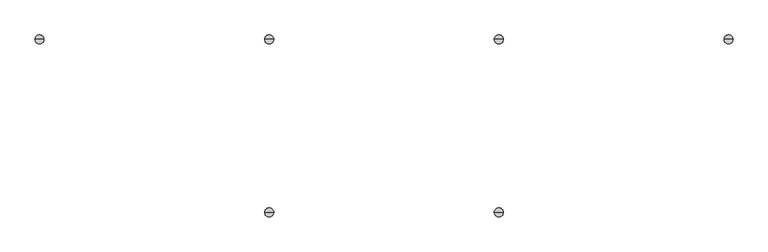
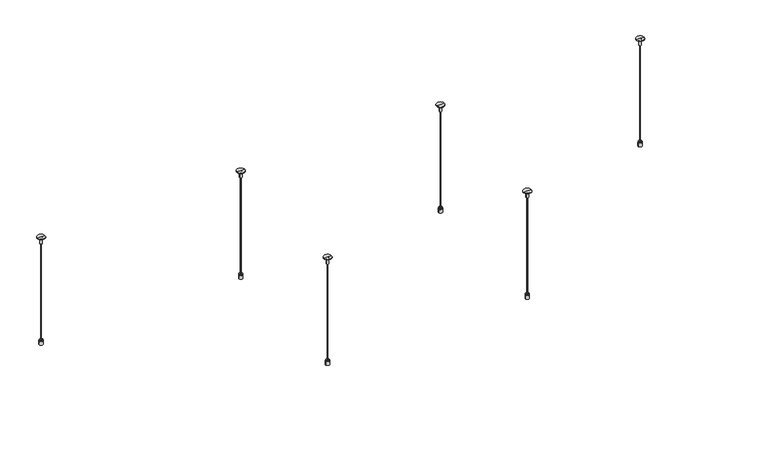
"""IFC4 building model written with IfcOpenShell, lengths in millimetres: proxy geometry, OWA Selecta : Selecta grande XL."""

from ifc_helpers import new_model, si_unit, point, frame, frame_2d, origin, place, context, project, spatial, polyline, circle_curve, trimmed, segment, composite_curve, outline, extrude, source, transform, mapped, element, save
from ifc_brep_helpers import plane_surface, cylinder_surface, revolved_surface, advanced_brep


def specialty_equipment_895da12a(model_context):
    return source(origin(), model_context, "Body", "SolidModel", [
        advanced_brep(
        [(-28.5, 305.0, 0.0), (-20.7593825, 305.0, 0.0), (-36.2406175, 305.0, 0.0), (-20.7593825, 305.0, 15.0), (-36.2406175, 305.0, 15.0), (-21.6843825, 305.0, 15.0), (-35.3156175, 305.0, 15.0), (-21.6843825, 305.0, 19.0), (-35.3156175, 305.0, 19.0), (-26.4343825, 305.0, 19.0), (-30.5656175, 305.0, 19.0), (-26.4343825, 305.0, 22.546183), (-30.5656175, 305.0, 22.546183), (-28.5, 305.0, 22.546183)],
        [
            (0, 1),
            (1, 2, circle_curve(frame((-28.5, 305.0, 0.0), z_axis=(0.0, 0.0, -1.0), x_axis=(1.0, 0.0, 0.0)), 7.7406175)),
            (2, 0),
            (2, 1, circle_curve(frame((-28.5, 305.0, 0.0), z_axis=(0.0, 0.0, -1.0), x_axis=(1.0, 0.0, 0.0)), 7.7406175)),
            (1, 3),
            (3, 4, circle_curve(frame((-28.5, 305.0, 15.0), z_axis=(0.0, 0.0, -1.0), x_axis=(1.0, 0.0, 0.0)), 7.7406175)),
            (4, 2),
            (4, 3, circle_curve(frame((-28.5, 305.0, 15.0), z_axis=(0.0, 0.0, -1.0), x_axis=(1.0, 0.0, 0.0)), 7.7406175)),
            (3, 5),
            (5, 6, circle_curve(frame((-28.5, 305.0, 15.0), z_axis=(0.0, 0.0, -1.0), x_axis=(1.0, 0.0, 0.0)), 6.8156175)),
            (6, 4),
            (6, 5, circle_curve(frame((-28.5, 305.0, 15.0), z_axis=(0.0, 0.0, -1.0), x_axis=(1.0, 0.0, 0.0)), 6.8156175)),
            (5, 7),
            (7, 8, circle_curve(frame((-28.5, 305.0, 19.0), z_axis=(0.0, 0.0, -1.0), x_axis=(1.0, 0.0, 0.0)), 6.8156175)),
            (8, 6),
            (8, 7, circle_curve(frame((-28.5, 305.0, 19.0), z_axis=(0.0, 0.0, -1.0), x_axis=(1.0, 0.0, 0.0)), 6.8156175)),
            (7, 9),
            (9, 10, circle_curve(frame((-28.5, 305.0, 19.0), z_axis=(0.0, 0.0, -1.0), x_axis=(1.0, 0.0, 0.0)), 2.0656175)),
            (10, 8),
            (10, 9, circle_curve(frame((-28.5, 305.0, 19.0), z_axis=(0.0, 0.0, -1.0), x_axis=(1.0, 0.0, 0.0)), 2.0656175)),
            (9, 11),
            (11, 12, circle_curve(frame((-28.5, 305.0, 22.546183), z_axis=(0.0, 0.0, -1.0), x_axis=(1.0, 0.0, 0.0)), 2.0656175)),
            (12, 10),
            (12, 11, circle_curve(frame((-28.5, 305.0, 22.546183), z_axis=(0.0, 0.0, -1.0), x_axis=(1.0, 0.0, 0.0)), 2.0656175)),
            (11, 13),
            (13, 12),
        ],
        [
            plane_surface(frame((-28.5, 305.0, 0.0), z_axis=(0.0, 0.0, -1.0), x_axis=(1.0, 0.0, 0.0))),
            cylinder_surface(frame((-28.5, 305.0, -10.0), z_axis=(0.0, 0.0, -1.0), x_axis=(1.0, 0.0, 0.0)), 7.7406175),
            plane_surface(frame((-28.5, 305.0, 15.0), z_axis=(0.0, 0.0, 1.0), x_axis=(1.0, 0.0, 0.0))),
            cylinder_surface(frame((-28.5, 305.0, -10.0), z_axis=(0.0, 0.0, -1.0), x_axis=(1.0, 0.0, 0.0)), 6.8156175),
            plane_surface(frame((-28.5, 305.0, 19.0), z_axis=(0.0, 0.0, 1.0), x_axis=(1.0, 0.0, 0.0))),
            cylinder_surface(frame((-28.5, 305.0, -10.0), z_axis=(0.0, 0.0, -1.0), x_axis=(1.0, 0.0, 0.0)), 2.0656175),
            plane_surface(frame((-28.5, 305.0, 22.546183), z_axis=(0.0, 0.0, 1.0), x_axis=(1.0, 0.0, 0.0))),
        ],
        [
            (0, [[1, 2, 3]]),
            (0, [[-3, 4, -1]]),
            (1, [[-2, 5, 6, 7]]),
            (1, [[-4, -7, 8, -5]]),
            (2, [[-6, 9, 10, 11]]),
            (2, [[-8, -11, 12, -9]]),
            (3, [[-10, 13, 14, 15]]),
            (3, [[-12, -15, 16, -13]]),
            (4, [[-14, 17, 18, 19]]),
            (4, [[-16, -19, 20, -17]]),
            (5, [[-18, 21, 22, 23]]),
            (5, [[-20, -23, 24, -21]]),
            (6, [[-22, 25, 26]]),
            (6, [[-24, -26, -25]]),
        ],
    ),
        advanced_brep(
        [(-30.7384611, 305.0, 428.8211737), (-26.2615389, 305.0, 428.8211737), (-26.1339453, 305.0, 432.8711737), (-30.8660547, 305.0, 432.8711737), (-23.6339453, 305.0, 432.8711737), (-33.3660547, 305.0, 432.8711737), (-23.6339453, 305.0, 458.1211737), (-33.3660547, 305.0, 458.1211737), (-12.6339453, 305.0, 458.1211737), (-44.3660547, 305.0, 458.1211737), (-12.6339453, 305.0, 460.0), (-44.3660547, 305.0, 460.0), (-28.5, 305.0, 460.0), (-28.5, 305.0, 428.8211737)],
        [
            (0, 1, circle_curve(frame((-28.5, 305.0, 428.8211737), z_axis=(0.0, 0.0, 1.0), x_axis=(1.0, 0.0, 0.0)), 2.2384611)),
            (1, 2),
            (2, 3, circle_curve(frame((-28.5, 305.0, 432.8711737), z_axis=(0.0, 0.0, -1.0), x_axis=(1.0, 0.0, 0.0)), 2.3660547)),
            (3, 0),
            (1, 0, circle_curve(frame((-28.5, 305.0, 428.8211737), z_axis=(0.0, 0.0, 1.0), x_axis=(1.0, 0.0, 0.0)), 2.2384611)),
            (3, 2, circle_curve(frame((-28.5, 305.0, 432.8711737), z_axis=(0.0, 0.0, -1.0), x_axis=(1.0, 0.0, 0.0)), 2.3660547)),
            (2, 4),
            (4, 5, circle_curve(frame((-28.5, 305.0, 432.8711737), z_axis=(0.0, 0.0, -1.0), x_axis=(1.0, 0.0, 0.0)), 4.8660547)),
            (5, 3),
            (5, 4, circle_curve(frame((-28.5, 305.0, 432.8711737), z_axis=(0.0, 0.0, -1.0), x_axis=(1.0, 0.0, 0.0)), 4.8660547)),
            (4, 6),
            (6, 7, circle_curve(frame((-28.5, 305.0, 458.1211737), z_axis=(0.0, 0.0, -1.0), x_axis=(1.0, 0.0, 0.0)), 4.8660547)),
            (7, 5),
            (7, 6, circle_curve(frame((-28.5, 305.0, 458.1211737), z_axis=(0.0, 0.0, -1.0), x_axis=(1.0, 0.0, 0.0)), 4.8660547)),
            (6, 8),
            (8, 9, circle_curve(frame((-28.5, 305.0, 458.1211737), z_axis=(0.0, 0.0, -1.0), x_axis=(1.0, 0.0, 0.0)), 15.8660547)),
            (9, 7),
            (9, 8, circle_curve(frame((-28.5, 305.0, 458.1211737), z_axis=(0.0, 0.0, -1.0), x_axis=(1.0, 0.0, 0.0)), 15.8660547)),
            (8, 10),
            (10, 11, circle_curve(frame((-28.5, 305.0, 460.0), z_axis=(0.0, 0.0, -1.0), x_axis=(1.0, 0.0, 0.0)), 15.8660547)),
            (11, 9),
            (11, 10, circle_curve(frame((-28.5, 305.0, 460.0), z_axis=(0.0, 0.0, -1.0), x_axis=(1.0, 0.0, 0.0)), 15.8660547)),
            (10, 12),
            (12, 11),
            (13, 1),
            (0, 13),
        ],
        [
            revolved_surface(polyline([(-26.1339453, 305.0, 432.8711737), (-26.2615389, 305.0, 428.8211737)]), (-28.5, 305.0, 461.8401096), (0.0, 0.0, -1.0)),
            plane_surface(frame((-28.5, 305.0, 432.8711737), z_axis=(0.0, 0.0, -1.0), x_axis=(1.0, 0.0, 0.0))),
            cylinder_surface(frame((-28.5, 305.0, 461.8401096), z_axis=(0.0, 0.0, -1.0), x_axis=(1.0, 0.0, 0.0)), 4.8660547),
            plane_surface(frame((-28.5, 305.0, 458.1211737), z_axis=(0.0, 0.0, -1.0), x_axis=(1.0, 0.0, 0.0))),
            cylinder_surface(frame((-28.5, 305.0, 461.8401096), z_axis=(0.0, 0.0, -1.0), x_axis=(1.0, 0.0, 0.0)), 15.8660547),
            plane_surface(frame((-28.5, 305.0, 460.0), z_axis=(0.0, 0.0, 1.0), x_axis=(1.0, 0.0, 0.0))),
            plane_surface(frame((-28.5, 305.0, 428.8211737), z_axis=(0.0, 0.0, -1.0), x_axis=(1.0, 0.0, 0.0))),
        ],
        [
            (0, [[1, 2, 3, 4]]),
            (0, [[5, -4, 6, -2]]),
            (1, [[-3, 7, 8, 9]]),
            (1, [[-6, -9, 10, -7]]),
            (2, [[-8, 11, 12, 13]]),
            (2, [[-10, -13, 14, -11]]),
            (3, [[-12, 15, 16, 17]]),
            (3, [[-14, -17, 18, -15]]),
            (4, [[-16, 19, 20, 21]]),
            (4, [[-18, -21, 22, -19]]),
            (5, [[-20, 23, 24]]),
            (5, [[-22, -24, -23]]),
            (6, [[25, -1, 26]]),
            (6, [[-26, -5, -25]]),
        ],
    ),
        extrude(outline(composite_curve([segment(trimmed(circle_curve(frame_2d((-28.5, 305.0)), 1.0), [point((-27.5, 305.0))], [point((-29.5, 305.0))], False, "CARTESIAN"), True, "CONTINUOUS"), segment(trimmed(circle_curve(frame_2d((-28.5, 305.0)), 1.0), [point((-29.5, 305.0))], [point((-27.5, 305.0))], False, "CARTESIAN"), True, "CONTINUOUS")], self_intersect=False)), frame((0.0, 0.0, 22.546183), z_axis=(0.0, 0.0, 1.0), x_axis=(1.0, 0.0, 0.0)), (0.0, 0.0, 1.0), 406.2749908),
        advanced_brep(
        [(-28.5, -305.0, 0.0), (-36.2406175, -305.0, 0.0), (-20.7593825, -305.0, 0.0), (-36.2406175, -305.0, 15.0), (-20.7593825, -305.0, 15.0), (-35.3156175, -305.0, 15.0), (-21.6843825, -305.0, 15.0), (-35.3156175, -305.0, 19.0), (-21.6843825, -305.0, 19.0), (-30.5656175, -305.0, 19.0), (-26.4343825, -305.0, 19.0), (-30.5656175, -305.0, 22.546183), (-26.4343825, -305.0, 22.546183), (-28.5, -305.0, 22.546183)],
        [
            (0, 1),
            (1, 2, circle_curve(frame((-28.5, -305.0, 0.0), z_axis=(0.0, 0.0, -1.0), x_axis=(1.0, 0.0, 0.0)), 7.7406175)),
            (2, 0),
            (2, 1, circle_curve(frame((-28.5, -305.0, 0.0), z_axis=(0.0, 0.0, -1.0), x_axis=(1.0, 0.0, 0.0)), 7.7406175)),
            (1, 3),
            (3, 4, circle_curve(frame((-28.5, -305.0, 15.0), z_axis=(0.0, 0.0, -1.0), x_axis=(1.0, 0.0, 0.0)), 7.7406175)),
            (4, 2),
            (4, 3, circle_curve(frame((-28.5, -305.0, 15.0), z_axis=(0.0, 0.0, -1.0), x_axis=(1.0, 0.0, 0.0)), 7.7406175)),
            (3, 5),
            (5, 6, circle_curve(frame((-28.5, -305.0, 15.0), z_axis=(0.0, 0.0, -1.0), x_axis=(1.0, 0.0, 0.0)), 6.8156175)),
            (6, 4),
            (6, 5, circle_curve(frame((-28.5, -305.0, 15.0), z_axis=(0.0, 0.0, -1.0), x_axis=(1.0, 0.0, 0.0)), 6.8156175)),
            (5, 7),
            (7, 8, circle_curve(frame((-28.5, -305.0, 19.0), z_axis=(0.0, 0.0, -1.0), x_axis=(1.0, 0.0, 0.0)), 6.8156175)),
            (8, 6),
            (8, 7, circle_curve(frame((-28.5, -305.0, 19.0), z_axis=(0.0, 0.0, -1.0), x_axis=(1.0, 0.0, 0.0)), 6.8156175)),
            (7, 9),
            (9, 10, circle_curve(frame((-28.5, -305.0, 19.0), z_axis=(0.0, 0.0, -1.0), x_axis=(1.0, 0.0, 0.0)), 2.0656175)),
            (10, 8),
            (10, 9, circle_curve(frame((-28.5, -305.0, 19.0), z_axis=(0.0, 0.0, -1.0), x_axis=(1.0, 0.0, 0.0)), 2.0656175)),
            (9, 11),
            (11, 12, circle_curve(frame((-28.5, -305.0, 22.546183), z_axis=(0.0, 0.0, -1.0), x_axis=(1.0, 0.0, 0.0)), 2.0656175)),
            (12, 10),
            (12, 11, circle_curve(frame((-28.5, -305.0, 22.546183), z_axis=(0.0, 0.0, -1.0), x_axis=(1.0, 0.0, 0.0)), 2.0656175)),
            (11, 13),
            (13, 12),
        ],
        [
            plane_surface(frame((-28.5, -305.0, 0.0), z_axis=(0.0, 0.0, -1.0), x_axis=(1.0, 0.0, 0.0))),
            cylinder_surface(frame((-28.5, -305.0, -10.0), z_axis=(0.0, 0.0, -1.0), x_axis=(1.0, 0.0, 0.0)), 7.7406175),
            plane_surface(frame((-28.5, -305.0, 15.0), z_axis=(0.0, 0.0, 1.0), x_axis=(1.0, 0.0, 0.0))),
            cylinder_surface(frame((-28.5, -305.0, -10.0), z_axis=(0.0, 0.0, -1.0), x_axis=(1.0, 0.0, 0.0)), 6.8156175),
            plane_surface(frame((-28.5, -305.0, 19.0), z_axis=(0.0, 0.0, 1.0), x_axis=(1.0, 0.0, 0.0))),
            cylinder_surface(frame((-28.5, -305.0, -10.0), z_axis=(0.0, 0.0, -1.0), x_axis=(1.0, 0.0, 0.0)), 2.0656175),
            plane_surface(frame((-28.5, -305.0, 22.546183), z_axis=(0.0, 0.0, 1.0), x_axis=(1.0, 0.0, 0.0))),
        ],
        [
            (0, [[1, 2, 3]]),
            (0, [[-3, 4, -1]]),
            (1, [[5, 6, 7, -2]]),
            (1, [[-7, 8, -5, -4]]),
            (2, [[9, 10, 11, -6]]),
            (2, [[-11, 12, -9, -8]]),
            (3, [[13, 14, 15, -10]]),
            (3, [[-15, 16, -13, -12]]),
            (4, [[17, 18, 19, -14]]),
            (4, [[-19, 20, -17, -16]]),
            (5, [[21, 22, 23, -18]]),
            (5, [[-23, 24, -21, -20]]),
            (6, [[25, 26, -22]]),
            (6, [[-26, -25, -24]]),
        ],
    ),
        advanced_brep(
        [(-30.7384611, -305.0, 428.8211737), (-30.8660547, -305.0, 432.8711737), (-26.1339453, -305.0, 432.8711737), (-26.2615389, -305.0, 428.8211737), (-33.3660547, -305.0, 432.8711737), (-23.6339453, -305.0, 432.8711737), (-33.3660547, -305.0, 458.1211737), (-23.6339453, -305.0, 458.1211737), (-44.3660547, -305.0, 458.1211737), (-12.6339453, -305.0, 458.1211737), (-44.3660547, -305.0, 460.0), (-12.6339453, -305.0, 460.0), (-28.5, -305.0, 460.0), (-28.5, -305.0, 428.8211737)],
        [
            (0, 1),
            (1, 2, circle_curve(frame((-28.5, -305.0, 432.8711737), z_axis=(0.0, 0.0, -1.0), x_axis=(1.0, 0.0, 0.0)), 2.3660547)),
            (2, 3),
            (3, 0, circle_curve(frame((-28.5, -305.0, 428.8211737), z_axis=(0.0, 0.0, 1.0), x_axis=(1.0, 0.0, 0.0)), 2.2384611)),
            (2, 1, circle_curve(frame((-28.5, -305.0, 432.8711737), z_axis=(0.0, 0.0, -1.0), x_axis=(1.0, 0.0, 0.0)), 2.3660547)),
            (0, 3, circle_curve(frame((-28.5, -305.0, 428.8211737), z_axis=(0.0, 0.0, 1.0), x_axis=(1.0, 0.0, 0.0)), 2.2384611)),
            (1, 4),
            (4, 5, circle_curve(frame((-28.5, -305.0, 432.8711737), z_axis=(0.0, 0.0, -1.0), x_axis=(1.0, 0.0, 0.0)), 4.8660547)),
            (5, 2),
            (5, 4, circle_curve(frame((-28.5, -305.0, 432.8711737), z_axis=(0.0, 0.0, -1.0), x_axis=(1.0, 0.0, 0.0)), 4.8660547)),
            (4, 6),
            (6, 7, circle_curve(frame((-28.5, -305.0, 458.1211737), z_axis=(0.0, 0.0, -1.0), x_axis=(1.0, 0.0, 0.0)), 4.8660547)),
            (7, 5),
            (7, 6, circle_curve(frame((-28.5, -305.0, 458.1211737), z_axis=(0.0, 0.0, -1.0), x_axis=(1.0, 0.0, 0.0)), 4.8660547)),
            (6, 8),
            (8, 9, circle_curve(frame((-28.5, -305.0, 458.1211737), z_axis=(0.0, 0.0, -1.0), x_axis=(1.0, 0.0, 0.0)), 15.8660547)),
            (9, 7),
            (9, 8, circle_curve(frame((-28.5, -305.0, 458.1211737), z_axis=(0.0, 0.0, -1.0), x_axis=(1.0, 0.0, 0.0)), 15.8660547)),
            (8, 10),
            (10, 11, circle_curve(frame((-28.5, -305.0, 460.0), z_axis=(0.0, 0.0, -1.0), x_axis=(1.0, 0.0, 0.0)), 15.8660547)),
            (11, 9),
            (11, 10, circle_curve(frame((-28.5, -305.0, 460.0), z_axis=(0.0, 0.0, -1.0), x_axis=(1.0, 0.0, 0.0)), 15.8660547)),
            (10, 12),
            (12, 11),
            (13, 0),
            (3, 13),
        ],
        [
            revolved_surface(polyline([(-26.1339453, -305.0, 432.8711737), (-26.2615389, -305.0, 428.8211737)]), (-28.5, -305.0, 461.8401096), (0.0, 0.0, -1.0)),
            plane_surface(frame((-28.5, -305.0, 432.8711737), z_axis=(0.0, 0.0, -1.0), x_axis=(1.0, 0.0, 0.0))),
            cylinder_surface(frame((-28.5, -305.0, 461.8401096), z_axis=(0.0, 0.0, -1.0), x_axis=(1.0, 0.0, 0.0)), 4.8660547),
            plane_surface(frame((-28.5, -305.0, 458.1211737), z_axis=(0.0, 0.0, -1.0), x_axis=(1.0, 0.0, 0.0))),
            cylinder_surface(frame((-28.5, -305.0, 461.8401096), z_axis=(0.0, 0.0, -1.0), x_axis=(1.0, 0.0, 0.0)), 15.8660547),
            plane_surface(frame((-28.5, -305.0, 460.0), z_axis=(0.0, 0.0, 1.0), x_axis=(1.0, 0.0, 0.0))),
            plane_surface(frame((-28.5, -305.0, 428.8211737), z_axis=(0.0, 0.0, -1.0), x_axis=(1.0, 0.0, 0.0))),
        ],
        [
            (0, [[1, 2, 3, 4]]),
            (0, [[-3, 5, -1, 6]]),
            (1, [[7, 8, 9, -2]]),
            (1, [[-9, 10, -7, -5]]),
            (2, [[11, 12, 13, -8]]),
            (2, [[-13, 14, -11, -10]]),
            (3, [[15, 16, 17, -12]]),
            (3, [[-17, 18, -15, -14]]),
            (4, [[19, 20, 21, -16]]),
            (4, [[-21, 22, -19, -18]]),
            (5, [[23, 24, -20]]),
            (5, [[-24, -23, -22]]),
            (6, [[25, -4, 26]]),
            (6, [[-26, -6, -25]]),
        ],
    ),
        extrude(outline(composite_curve([segment(trimmed(circle_curve(frame_2d((-28.5, -305.0)), 1.0), [point((-27.5, -305.0))], [point((-29.5, -305.0))], False, "CARTESIAN"), True, "CONTINUOUS"), segment(trimmed(circle_curve(frame_2d((-28.5, -305.0)), 1.0), [point((-29.5, -305.0))], [point((-27.5, -305.0))], False, "CARTESIAN"), True, "CONTINUOUS")], self_intersect=False)), frame((0.0, 0.0, 22.546183), z_axis=(0.0, 0.0, 1.0), x_axis=(1.0, 0.0, 0.0)), (0.0, 0.0, 1.0), 406.2749908),
        advanced_brep(
        [(-838.5, 305.0, 0.0), (-830.7593825, 305.0, 0.0), (-846.2406175, 305.0, 0.0), (-830.7593825, 305.0, 15.0), (-846.2406175, 305.0, 15.0), (-831.6843825, 305.0, 15.0), (-845.3156175, 305.0, 15.0), (-831.6843825, 305.0, 19.0), (-845.3156175, 305.0, 19.0), (-836.4343825, 305.0, 19.0), (-840.5656175, 305.0, 19.0), (-836.4343825, 305.0, 22.546183), (-840.5656175, 305.0, 22.546183), (-838.5, 305.0, 22.546183)],
        [
            (0, 1),
            (1, 2, circle_curve(frame((-838.5, 305.0, 0.0), z_axis=(0.0, 0.0, -1.0), x_axis=(-1.0, 0.0, 0.0)), 7.7406175)),
            (2, 0),
            (2, 1, circle_curve(frame((-838.5, 305.0, 0.0), z_axis=(0.0, 0.0, -1.0), x_axis=(-1.0, 0.0, 0.0)), 7.7406175)),
            (1, 3),
            (3, 4, circle_curve(frame((-838.5, 305.0, 15.0), z_axis=(0.0, 0.0, -1.0), x_axis=(-1.0, 0.0, 0.0)), 7.7406175)),
            (4, 2),
            (4, 3, circle_curve(frame((-838.5, 305.0, 15.0), z_axis=(0.0, 0.0, -1.0), x_axis=(-1.0, 0.0, 0.0)), 7.7406175)),
            (3, 5),
            (5, 6, circle_curve(frame((-838.5, 305.0, 15.0), z_axis=(0.0, 0.0, -1.0), x_axis=(-1.0, 0.0, 0.0)), 6.8156175)),
            (6, 4),
            (6, 5, circle_curve(frame((-838.5, 305.0, 15.0), z_axis=(0.0, 0.0, -1.0), x_axis=(-1.0, 0.0, 0.0)), 6.8156175)),
            (5, 7),
            (7, 8, circle_curve(frame((-838.5, 305.0, 19.0), z_axis=(0.0, 0.0, -1.0), x_axis=(-1.0, 0.0, 0.0)), 6.8156175)),
            (8, 6),
            (8, 7, circle_curve(frame((-838.5, 305.0, 19.0), z_axis=(0.0, 0.0, -1.0), x_axis=(-1.0, 0.0, 0.0)), 6.8156175)),
            (7, 9),
            (9, 10, circle_curve(frame((-838.5, 305.0, 19.0), z_axis=(0.0, 0.0, -1.0), x_axis=(-1.0, 0.0, 0.0)), 2.0656175)),
            (10, 8),
            (10, 9, circle_curve(frame((-838.5, 305.0, 19.0), z_axis=(0.0, 0.0, -1.0), x_axis=(-1.0, 0.0, 0.0)), 2.0656175)),
            (9, 11),
            (11, 12, circle_curve(frame((-838.5, 305.0, 22.546183), z_axis=(0.0, 0.0, -1.0), x_axis=(-1.0, 0.0, 0.0)), 2.0656175)),
            (12, 10),
            (12, 11, circle_curve(frame((-838.5, 305.0, 22.546183), z_axis=(0.0, 0.0, -1.0), x_axis=(-1.0, 0.0, 0.0)), 2.0656175)),
            (11, 13),
            (13, 12),
        ],
        [
            plane_surface(frame((-838.5, 305.0, 0.0), z_axis=(0.0, 0.0, -1.0), x_axis=(-1.0, 0.0, 0.0))),
            cylinder_surface(frame((-838.5, 305.0, -10.0), z_axis=(0.0, 0.0, -1.0), x_axis=(-1.0, 0.0, 0.0)), 7.7406175),
            plane_surface(frame((-838.5, 305.0, 15.0), z_axis=(0.0, 0.0, 1.0), x_axis=(-1.0, 0.0, 0.0))),
            cylinder_surface(frame((-838.5, 305.0, -10.0), z_axis=(0.0, 0.0, -1.0), x_axis=(-1.0, 0.0, 0.0)), 6.8156175),
            plane_surface(frame((-838.5, 305.0, 19.0), z_axis=(0.0, 0.0, 1.0), x_axis=(-1.0, 0.0, 0.0))),
            cylinder_surface(frame((-838.5, 305.0, -10.0), z_axis=(0.0, 0.0, -1.0), x_axis=(-1.0, 0.0, 0.0)), 2.0656175),
            plane_surface(frame((-838.5, 305.0, 22.546183), z_axis=(0.0, 0.0, 1.0), x_axis=(-1.0, 0.0, 0.0))),
        ],
        [
            (0, [[1, 2, 3]]),
            (0, [[-3, 4, -1]]),
            (1, [[5, 6, 7, -2]]),
            (1, [[-7, 8, -5, -4]]),
            (2, [[9, 10, 11, -6]]),
            (2, [[-11, 12, -9, -8]]),
            (3, [[13, 14, 15, -10]]),
            (3, [[-15, 16, -13, -12]]),
            (4, [[17, 18, 19, -14]]),
            (4, [[-19, 20, -17, -16]]),
            (5, [[21, 22, 23, -18]]),
            (5, [[-23, 24, -21, -20]]),
            (6, [[25, 26, -22]]),
            (6, [[-26, -25, -24]]),
        ],
    ),
        advanced_brep(
        [(-836.2615389, 305.0, 428.8211737), (-836.1339453, 305.0, 432.8711737), (-840.8660547, 305.0, 432.8711737), (-840.7384611, 305.0, 428.8211737), (-833.6339453, 305.0, 432.8711737), (-843.3660547, 305.0, 432.8711737), (-833.6339453, 305.0, 458.1211737), (-843.3660547, 305.0, 458.1211737), (-822.6339453, 305.0, 458.1211737), (-854.3660547, 305.0, 458.1211737), (-822.6339453, 305.0, 460.0), (-854.3660547, 305.0, 460.0), (-838.5, 305.0, 460.0), (-838.5, 305.0, 428.8211737)],
        [
            (0, 1),
            (1, 2, circle_curve(frame((-838.5, 305.0, 432.8711737), z_axis=(0.0, 0.0, -1.0), x_axis=(-1.0, 0.0, 0.0)), 2.3660547)),
            (2, 3),
            (3, 0, circle_curve(frame((-838.5, 305.0, 428.8211737), z_axis=(0.0, 0.0, 1.0), x_axis=(-1.0, 0.0, 0.0)), 2.2384611)),
            (2, 1, circle_curve(frame((-838.5, 305.0, 432.8711737), z_axis=(0.0, 0.0, -1.0), x_axis=(-1.0, 0.0, 0.0)), 2.3660547)),
            (0, 3, circle_curve(frame((-838.5, 305.0, 428.8211737), z_axis=(0.0, 0.0, 1.0), x_axis=(-1.0, 0.0, 0.0)), 2.2384611)),
            (1, 4),
            (4, 5, circle_curve(frame((-838.5, 305.0, 432.8711737), z_axis=(0.0, 0.0, -1.0), x_axis=(-1.0, 0.0, 0.0)), 4.8660547)),
            (5, 2),
            (5, 4, circle_curve(frame((-838.5, 305.0, 432.8711737), z_axis=(0.0, 0.0, -1.0), x_axis=(-1.0, 0.0, 0.0)), 4.8660547)),
            (4, 6),
            (6, 7, circle_curve(frame((-838.5, 305.0, 458.1211737), z_axis=(0.0, 0.0, -1.0), x_axis=(-1.0, 0.0, 0.0)), 4.8660547)),
            (7, 5),
            (7, 6, circle_curve(frame((-838.5, 305.0, 458.1211737), z_axis=(0.0, 0.0, -1.0), x_axis=(-1.0, 0.0, 0.0)), 4.8660547)),
            (6, 8),
            (8, 9, circle_curve(frame((-838.5, 305.0, 458.1211737), z_axis=(0.0, 0.0, -1.0), x_axis=(-1.0, 0.0, 0.0)), 15.8660547)),
            (9, 7),
            (9, 8, circle_curve(frame((-838.5, 305.0, 458.1211737), z_axis=(0.0, 0.0, -1.0), x_axis=(-1.0, 0.0, 0.0)), 15.8660547)),
            (8, 10),
            (10, 11, circle_curve(frame((-838.5, 305.0, 460.0), z_axis=(0.0, 0.0, -1.0), x_axis=(-1.0, 0.0, 0.0)), 15.8660547)),
            (11, 9),
            (11, 10, circle_curve(frame((-838.5, 305.0, 460.0), z_axis=(0.0, 0.0, -1.0), x_axis=(-1.0, 0.0, 0.0)), 15.8660547)),
            (10, 12),
            (12, 11),
            (13, 0),
            (3, 13),
        ],
        [
            revolved_surface(polyline([(-840.8660547, 305.0, 432.8711737), (-840.7384611, 305.0, 428.8211737)]), (-838.5, 305.0, 461.8401096), (0.0, 0.0, -1.0)),
            plane_surface(frame((-838.5, 305.0, 432.8711737), z_axis=(0.0, 0.0, -1.0), x_axis=(-1.0, 0.0, 0.0))),
            cylinder_surface(frame((-838.5, 305.0, 461.8401096), z_axis=(0.0, 0.0, -1.0), x_axis=(-1.0, 0.0, 0.0)), 4.8660547),
            plane_surface(frame((-838.5, 305.0, 458.1211737), z_axis=(0.0, 0.0, -1.0), x_axis=(-1.0, 0.0, 0.0))),
            cylinder_surface(frame((-838.5, 305.0, 461.8401096), z_axis=(0.0, 0.0, -1.0), x_axis=(-1.0, 0.0, 0.0)), 15.8660547),
            plane_surface(frame((-838.5, 305.0, 460.0), z_axis=(0.0, 0.0, 1.0), x_axis=(-1.0, 0.0, 0.0))),
            plane_surface(frame((-838.5, 305.0, 428.8211737), z_axis=(0.0, 0.0, -1.0), x_axis=(-1.0, 0.0, 0.0))),
        ],
        [
            (0, [[1, 2, 3, 4]]),
            (0, [[-3, 5, -1, 6]]),
            (1, [[7, 8, 9, -2]]),
            (1, [[-9, 10, -7, -5]]),
            (2, [[11, 12, 13, -8]]),
            (2, [[-13, 14, -11, -10]]),
            (3, [[15, 16, 17, -12]]),
            (3, [[-17, 18, -15, -14]]),
            (4, [[19, 20, 21, -16]]),
            (4, [[-21, 22, -19, -18]]),
            (5, [[23, 24, -20]]),
            (5, [[-24, -23, -22]]),
            (6, [[25, -4, 26]]),
            (6, [[-26, -6, -25]]),
        ],
    ),
        extrude(outline(composite_curve([segment(trimmed(circle_curve(frame_2d((-838.5, 305.0)), 1.0), [point((-839.5, 305.0))], [point((-837.5, 305.0))], False, "CARTESIAN"), True, "CONTINUOUS"), segment(trimmed(circle_curve(frame_2d((-838.5, 305.0)), 1.0), [point((-837.5, 305.0))], [point((-839.5, 305.0))], False, "CARTESIAN"), True, "CONTINUOUS")], self_intersect=False)), frame((0.0, 0.0, 22.546183), z_axis=(0.0, 0.0, 1.0), x_axis=(1.0, 0.0, 0.0)), (0.0, 0.0, 1.0), 406.2749908),
        advanced_brep(
        [(-838.5, -305.0, 0.0), (-846.2406175, -305.0, 0.0), (-830.7593825, -305.0, 0.0), (-846.2406175, -305.0, 15.0), (-830.7593825, -305.0, 15.0), (-845.3156175, -305.0, 15.0), (-831.6843825, -305.0, 15.0), (-845.3156175, -305.0, 19.0), (-831.6843825, -305.0, 19.0), (-840.5656175, -305.0, 19.0), (-836.4343825, -305.0, 19.0), (-840.5656175, -305.0, 22.546183), (-836.4343825, -305.0, 22.546183), (-838.5, -305.0, 22.546183)],
        [
            (0, 1),
            (1, 2, circle_curve(frame((-838.5, -305.0, 0.0), z_axis=(0.0, 0.0, -1.0), x_axis=(-1.0, 0.0, 0.0)), 7.7406175)),
            (2, 0),
            (2, 1, circle_curve(frame((-838.5, -305.0, 0.0), z_axis=(0.0, 0.0, -1.0), x_axis=(-1.0, 0.0, 0.0)), 7.7406175)),
            (1, 3),
            (3, 4, circle_curve(frame((-838.5, -305.0, 15.0), z_axis=(0.0, 0.0, -1.0), x_axis=(-1.0, 0.0, 0.0)), 7.7406175)),
            (4, 2),
            (4, 3, circle_curve(frame((-838.5, -305.0, 15.0), z_axis=(0.0, 0.0, -1.0), x_axis=(-1.0, 0.0, 0.0)), 7.7406175)),
            (3, 5),
            (5, 6, circle_curve(frame((-838.5, -305.0, 15.0), z_axis=(0.0, 0.0, -1.0), x_axis=(-1.0, 0.0, 0.0)), 6.8156175)),
            (6, 4),
            (6, 5, circle_curve(frame((-838.5, -305.0, 15.0), z_axis=(0.0, 0.0, -1.0), x_axis=(-1.0, 0.0, 0.0)), 6.8156175)),
            (5, 7),
            (7, 8, circle_curve(frame((-838.5, -305.0, 19.0), z_axis=(0.0, 0.0, -1.0), x_axis=(-1.0, 0.0, 0.0)), 6.8156175)),
            (8, 6),
            (8, 7, circle_curve(frame((-838.5, -305.0, 19.0), z_axis=(0.0, 0.0, -1.0), x_axis=(-1.0, 0.0, 0.0)), 6.8156175)),
            (7, 9),
            (9, 10, circle_curve(frame((-838.5, -305.0, 19.0), z_axis=(0.0, 0.0, -1.0), x_axis=(-1.0, 0.0, 0.0)), 2.0656175)),
            (10, 8),
            (10, 9, circle_curve(frame((-838.5, -305.0, 19.0), z_axis=(0.0, 0.0, -1.0), x_axis=(-1.0, 0.0, 0.0)), 2.0656175)),
            (9, 11),
            (11, 12, circle_curve(frame((-838.5, -305.0, 22.546183), z_axis=(0.0, 0.0, -1.0), x_axis=(-1.0, 0.0, 0.0)), 2.0656175)),
            (12, 10),
            (12, 11, circle_curve(frame((-838.5, -305.0, 22.546183), z_axis=(0.0, 0.0, -1.0), x_axis=(-1.0, 0.0, 0.0)), 2.0656175)),
            (11, 13),
            (13, 12),
        ],
        [
            plane_surface(frame((-838.5, -305.0, 0.0), z_axis=(0.0, 0.0, -1.0), x_axis=(-1.0, 0.0, 0.0))),
            cylinder_surface(frame((-838.5, -305.0, -10.0), z_axis=(0.0, 0.0, -1.0), x_axis=(-1.0, 0.0, 0.0)), 7.7406175),
            plane_surface(frame((-838.5, -305.0, 15.0), z_axis=(0.0, 0.0, 1.0), x_axis=(-1.0, 0.0, 0.0))),
            cylinder_surface(frame((-838.5, -305.0, -10.0), z_axis=(0.0, 0.0, -1.0), x_axis=(-1.0, 0.0, 0.0)), 6.8156175),
            plane_surface(frame((-838.5, -305.0, 19.0), z_axis=(0.0, 0.0, 1.0), x_axis=(-1.0, 0.0, 0.0))),
            cylinder_surface(frame((-838.5, -305.0, -10.0), z_axis=(0.0, 0.0, -1.0), x_axis=(-1.0, 0.0, 0.0)), 2.0656175),
            plane_surface(frame((-838.5, -305.0, 22.546183), z_axis=(0.0, 0.0, 1.0), x_axis=(-1.0, 0.0, 0.0))),
        ],
        [
            (0, [[1, 2, 3]]),
            (0, [[-3, 4, -1]]),
            (1, [[-2, 5, 6, 7]]),
            (1, [[-4, -7, 8, -5]]),
            (2, [[-6, 9, 10, 11]]),
            (2, [[-8, -11, 12, -9]]),
            (3, [[-10, 13, 14, 15]]),
            (3, [[-12, -15, 16, -13]]),
            (4, [[-14, 17, 18, 19]]),
            (4, [[-16, -19, 20, -17]]),
            (5, [[-18, 21, 22, 23]]),
            (5, [[-20, -23, 24, -21]]),
            (6, [[-22, 25, 26]]),
            (6, [[-24, -26, -25]]),
        ],
    ),
        advanced_brep(
        [(-836.2615389, -305.0, 428.8211737), (-840.7384611, -305.0, 428.8211737), (-840.8660547, -305.0, 432.8711737), (-836.1339453, -305.0, 432.8711737), (-843.3660547, -305.0, 432.8711737), (-833.6339453, -305.0, 432.8711737), (-843.3660547, -305.0, 458.1211737), (-833.6339453, -305.0, 458.1211737), (-854.3660547, -305.0, 458.1211737), (-822.6339453, -305.0, 458.1211737), (-854.3660547, -305.0, 460.0), (-822.6339453, -305.0, 460.0), (-838.5, -305.0, 460.0), (-838.5, -305.0, 428.8211737)],
        [
            (0, 1, circle_curve(frame((-838.5, -305.0, 428.8211737), z_axis=(0.0, 0.0, 1.0), x_axis=(-1.0, 0.0, 0.0)), 2.2384611)),
            (1, 2),
            (2, 3, circle_curve(frame((-838.5, -305.0, 432.8711737), z_axis=(0.0, 0.0, -1.0), x_axis=(-1.0, 0.0, 0.0)), 2.3660547)),
            (3, 0),
            (1, 0, circle_curve(frame((-838.5, -305.0, 428.8211737), z_axis=(0.0, 0.0, 1.0), x_axis=(-1.0, 0.0, 0.0)), 2.2384611)),
            (3, 2, circle_curve(frame((-838.5, -305.0, 432.8711737), z_axis=(0.0, 0.0, -1.0), x_axis=(-1.0, 0.0, 0.0)), 2.3660547)),
            (2, 4),
            (4, 5, circle_curve(frame((-838.5, -305.0, 432.8711737), z_axis=(0.0, 0.0, -1.0), x_axis=(-1.0, 0.0, 0.0)), 4.8660547)),
            (5, 3),
            (5, 4, circle_curve(frame((-838.5, -305.0, 432.8711737), z_axis=(0.0, 0.0, -1.0), x_axis=(-1.0, 0.0, 0.0)), 4.8660547)),
            (4, 6),
            (6, 7, circle_curve(frame((-838.5, -305.0, 458.1211737), z_axis=(0.0, 0.0, -1.0), x_axis=(-1.0, 0.0, 0.0)), 4.8660547)),
            (7, 5),
            (7, 6, circle_curve(frame((-838.5, -305.0, 458.1211737), z_axis=(0.0, 0.0, -1.0), x_axis=(-1.0, 0.0, 0.0)), 4.8660547)),
            (6, 8),
            (8, 9, circle_curve(frame((-838.5, -305.0, 458.1211737), z_axis=(0.0, 0.0, -1.0), x_axis=(-1.0, 0.0, 0.0)), 15.8660547)),
            (9, 7),
            (9, 8, circle_curve(frame((-838.5, -305.0, 458.1211737), z_axis=(0.0, 0.0, -1.0), x_axis=(-1.0, 0.0, 0.0)), 15.8660547)),
            (8, 10),
            (10, 11, circle_curve(frame((-838.5, -305.0, 460.0), z_axis=(0.0, 0.0, -1.0), x_axis=(-1.0, 0.0, 0.0)), 15.8660547)),
            (11, 9),
            (11, 10, circle_curve(frame((-838.5, -305.0, 460.0), z_axis=(0.0, 0.0, -1.0), x_axis=(-1.0, 0.0, 0.0)), 15.8660547)),
            (10, 12),
            (12, 11),
            (13, 1),
            (0, 13),
        ],
        [
            revolved_surface(polyline([(-840.8660547, -305.0, 432.8711737), (-840.7384611, -305.0, 428.8211737)]), (-838.5, -305.0, 461.8401096), (0.0, 0.0, -1.0)),
            plane_surface(frame((-838.5, -305.0, 432.8711737), z_axis=(0.0, 0.0, -1.0), x_axis=(-1.0, 0.0, 0.0))),
            cylinder_surface(frame((-838.5, -305.0, 461.8401096), z_axis=(0.0, 0.0, -1.0), x_axis=(-1.0, 0.0, 0.0)), 4.8660547),
            plane_surface(frame((-838.5, -305.0, 458.1211737), z_axis=(0.0, 0.0, -1.0), x_axis=(-1.0, 0.0, 0.0))),
            cylinder_surface(frame((-838.5, -305.0, 461.8401096), z_axis=(0.0, 0.0, -1.0), x_axis=(-1.0, 0.0, 0.0)), 15.8660547),
            plane_surface(frame((-838.5, -305.0, 460.0), z_axis=(0.0, 0.0, 1.0), x_axis=(-1.0, 0.0, 0.0))),
            plane_surface(frame((-838.5, -305.0, 428.8211737), z_axis=(0.0, 0.0, -1.0), x_axis=(-1.0, 0.0, 0.0))),
        ],
        [
            (0, [[1, 2, 3, 4]]),
            (0, [[5, -4, 6, -2]]),
            (1, [[-3, 7, 8, 9]]),
            (1, [[-6, -9, 10, -7]]),
            (2, [[-8, 11, 12, 13]]),
            (2, [[-10, -13, 14, -11]]),
            (3, [[-12, 15, 16, 17]]),
            (3, [[-14, -17, 18, -15]]),
            (4, [[-16, 19, 20, 21]]),
            (4, [[-18, -21, 22, -19]]),
            (5, [[-20, 23, 24]]),
            (5, [[-22, -24, -23]]),
            (6, [[25, -1, 26]]),
            (6, [[-26, -5, -25]]),
        ],
    ),
        extrude(outline(composite_curve([segment(trimmed(circle_curve(frame_2d((-838.5, -305.0)), 1.0), [point((-839.5, -305.0))], [point((-837.5, -305.0))], False, "CARTESIAN"), True, "CONTINUOUS"), segment(trimmed(circle_curve(frame_2d((-838.5, -305.0)), 1.0), [point((-837.5, -305.0))], [point((-839.5, -305.0))], False, "CARTESIAN"), True, "CONTINUOUS")], self_intersect=False)), frame((0.0, 0.0, 22.546183), z_axis=(0.0, 0.0, 1.0), x_axis=(1.0, 0.0, 0.0)), (0.0, 0.0, 1.0), 406.2749908),
        advanced_brep(
        [(-1648.5, 305.0, 0.0), (-1640.7593825, 305.0, 0.0), (-1656.2406175, 305.0, 0.0), (-1640.7593825, 305.0, 15.0), (-1656.2406175, 305.0, 15.0), (-1641.6843825, 305.0, 15.0), (-1655.3156175, 305.0, 15.0), (-1641.6843825, 305.0, 19.0), (-1655.3156175, 305.0, 19.0), (-1646.4343825, 305.0, 19.0), (-1650.5656175, 305.0, 19.0), (-1646.4343825, 305.0, 22.546183), (-1650.5656175, 305.0, 22.546183), (-1648.5, 305.0, 22.546183)],
        [
            (0, 1),
            (1, 2, circle_curve(frame((-1648.5, 305.0, 0.0), z_axis=(0.0, 0.0, -1.0), x_axis=(-1.0, 0.0, 0.0)), 7.7406175)),
            (2, 0),
            (2, 1, circle_curve(frame((-1648.5, 305.0, 0.0), z_axis=(0.0, 0.0, -1.0), x_axis=(-1.0, 0.0, 0.0)), 7.7406175)),
            (1, 3),
            (3, 4, circle_curve(frame((-1648.5, 305.0, 15.0), z_axis=(0.0, 0.0, -1.0), x_axis=(-1.0, 0.0, 0.0)), 7.7406175)),
            (4, 2),
            (4, 3, circle_curve(frame((-1648.5, 305.0, 15.0), z_axis=(0.0, 0.0, -1.0), x_axis=(-1.0, 0.0, 0.0)), 7.7406175)),
            (3, 5),
            (5, 6, circle_curve(frame((-1648.5, 305.0, 15.0), z_axis=(0.0, 0.0, -1.0), x_axis=(-1.0, 0.0, 0.0)), 6.8156175)),
            (6, 4),
            (6, 5, circle_curve(frame((-1648.5, 305.0, 15.0), z_axis=(0.0, 0.0, -1.0), x_axis=(-1.0, 0.0, 0.0)), 6.8156175)),
            (5, 7),
            (7, 8, circle_curve(frame((-1648.5, 305.0, 19.0), z_axis=(0.0, 0.0, -1.0), x_axis=(-1.0, 0.0, 0.0)), 6.8156175)),
            (8, 6),
            (8, 7, circle_curve(frame((-1648.5, 305.0, 19.0), z_axis=(0.0, 0.0, -1.0), x_axis=(-1.0, 0.0, 0.0)), 6.8156175)),
            (7, 9),
            (9, 10, circle_curve(frame((-1648.5, 305.0, 19.0), z_axis=(0.0, 0.0, -1.0), x_axis=(-1.0, 0.0, 0.0)), 2.0656175)),
            (10, 8),
            (10, 9, circle_curve(frame((-1648.5, 305.0, 19.0), z_axis=(0.0, 0.0, -1.0), x_axis=(-1.0, 0.0, 0.0)), 2.0656175)),
            (9, 11),
            (11, 12, circle_curve(frame((-1648.5, 305.0, 22.546183), z_axis=(0.0, 0.0, -1.0), x_axis=(-1.0, 0.0, 0.0)), 2.0656175)),
            (12, 10),
            (12, 11, circle_curve(frame((-1648.5, 305.0, 22.546183), z_axis=(0.0, 0.0, -1.0), x_axis=(-1.0, 0.0, 0.0)), 2.0656175)),
            (11, 13),
            (13, 12),
        ],
        [
            plane_surface(frame((-1648.5, 305.0, 0.0), z_axis=(0.0, 0.0, -1.0), x_axis=(-1.0, 0.0, 0.0))),
            cylinder_surface(frame((-1648.5, 305.0, -10.0), z_axis=(0.0, 0.0, -1.0), x_axis=(-1.0, 0.0, 0.0)), 7.7406175),
            plane_surface(frame((-1648.5, 305.0, 15.0), z_axis=(0.0, 0.0, 1.0), x_axis=(-1.0, 0.0, 0.0))),
            cylinder_surface(frame((-1648.5, 305.0, -10.0), z_axis=(0.0, 0.0, -1.0), x_axis=(-1.0, 0.0, 0.0)), 6.8156175),
            plane_surface(frame((-1648.5, 305.0, 19.0), z_axis=(0.0, 0.0, 1.0), x_axis=(-1.0, 0.0, 0.0))),
            cylinder_surface(frame((-1648.5, 305.0, -10.0), z_axis=(0.0, 0.0, -1.0), x_axis=(-1.0, 0.0, 0.0)), 2.0656175),
            plane_surface(frame((-1648.5, 305.0, 22.546183), z_axis=(0.0, 0.0, 1.0), x_axis=(-1.0, 0.0, 0.0))),
        ],
        [
            (0, [[1, 2, 3]]),
            (0, [[-3, 4, -1]]),
            (1, [[5, 6, 7, -2]]),
            (1, [[-7, 8, -5, -4]]),
            (2, [[9, 10, 11, -6]]),
            (2, [[-11, 12, -9, -8]]),
            (3, [[13, 14, 15, -10]]),
            (3, [[-15, 16, -13, -12]]),
            (4, [[17, 18, 19, -14]]),
            (4, [[-19, 20, -17, -16]]),
            (5, [[21, 22, 23, -18]]),
            (5, [[-23, 24, -21, -20]]),
            (6, [[25, 26, -22]]),
            (6, [[-26, -25, -24]]),
        ],
    ),
        advanced_brep(
        [(-1646.2615389, 305.0, 428.8211737), (-1646.1339453, 305.0, 432.8711737), (-1650.8660547, 305.0, 432.8711737), (-1650.7384611, 305.0, 428.8211737), (-1643.6339453, 305.0, 432.8711737), (-1653.3660547, 305.0, 432.8711737), (-1643.6339453, 305.0, 458.1211737), (-1653.3660547, 305.0, 458.1211737), (-1632.6339453, 305.0, 458.1211737), (-1664.3660547, 305.0, 458.1211737), (-1632.6339453, 305.0, 460.0), (-1664.3660547, 305.0, 460.0), (-1648.5, 305.0, 460.0), (-1648.5, 305.0, 428.8211737)],
        [
            (0, 1),
            (1, 2, circle_curve(frame((-1648.5, 305.0, 432.8711737), z_axis=(0.0, 0.0, -1.0), x_axis=(-1.0, 0.0, 0.0)), 2.3660547)),
            (2, 3),
            (3, 0, circle_curve(frame((-1648.5, 305.0, 428.8211737), z_axis=(0.0, 0.0, 1.0), x_axis=(-1.0, 0.0, 0.0)), 2.2384611)),
            (2, 1, circle_curve(frame((-1648.5, 305.0, 432.8711737), z_axis=(0.0, 0.0, -1.0), x_axis=(-1.0, 0.0, 0.0)), 2.3660547)),
            (0, 3, circle_curve(frame((-1648.5, 305.0, 428.8211737), z_axis=(0.0, 0.0, 1.0), x_axis=(-1.0, 0.0, 0.0)), 2.2384611)),
            (1, 4),
            (4, 5, circle_curve(frame((-1648.5, 305.0, 432.8711737), z_axis=(0.0, 0.0, -1.0), x_axis=(-1.0, 0.0, 0.0)), 4.8660547)),
            (5, 2),
            (5, 4, circle_curve(frame((-1648.5, 305.0, 432.8711737), z_axis=(0.0, 0.0, -1.0), x_axis=(-1.0, 0.0, 0.0)), 4.8660547)),
            (4, 6),
            (6, 7, circle_curve(frame((-1648.5, 305.0, 458.1211737), z_axis=(0.0, 0.0, -1.0), x_axis=(-1.0, 0.0, 0.0)), 4.8660547)),
            (7, 5),
            (7, 6, circle_curve(frame((-1648.5, 305.0, 458.1211737), z_axis=(0.0, 0.0, -1.0), x_axis=(-1.0, 0.0, 0.0)), 4.8660547)),
            (6, 8),
            (8, 9, circle_curve(frame((-1648.5, 305.0, 458.1211737), z_axis=(0.0, 0.0, -1.0), x_axis=(-1.0, 0.0, 0.0)), 15.8660547)),
            (9, 7),
            (9, 8, circle_curve(frame((-1648.5, 305.0, 458.1211737), z_axis=(0.0, 0.0, -1.0), x_axis=(-1.0, 0.0, 0.0)), 15.8660547)),
            (8, 10),
            (10, 11, circle_curve(frame((-1648.5, 305.0, 460.0), z_axis=(0.0, 0.0, -1.0), x_axis=(-1.0, 0.0, 0.0)), 15.8660547)),
            (11, 9),
            (11, 10, circle_curve(frame((-1648.5, 305.0, 460.0), z_axis=(0.0, 0.0, -1.0), x_axis=(-1.0, 0.0, 0.0)), 15.8660547)),
            (10, 12),
            (12, 11),
            (13, 0),
            (3, 13),
        ],
        [
            revolved_surface(polyline([(-1650.8660547, 305.0, 432.8711737), (-1650.7384611, 305.0, 428.8211737)]), (-1648.5, 305.0, 461.8401096), (0.0, 0.0, -1.0)),
            plane_surface(frame((-1648.5, 305.0, 432.8711737), z_axis=(0.0, 0.0, -1.0), x_axis=(-1.0, 0.0, 0.0))),
            cylinder_surface(frame((-1648.5, 305.0, 461.8401096), z_axis=(0.0, 0.0, -1.0), x_axis=(-1.0, 0.0, 0.0)), 4.8660547),
            plane_surface(frame((-1648.5, 305.0, 458.1211737), z_axis=(0.0, 0.0, -1.0), x_axis=(-1.0, 0.0, 0.0))),
            cylinder_surface(frame((-1648.5, 305.0, 461.8401096), z_axis=(0.0, 0.0, -1.0), x_axis=(-1.0, 0.0, 0.0)), 15.8660547),
            plane_surface(frame((-1648.5, 305.0, 460.0), z_axis=(0.0, 0.0, 1.0), x_axis=(-1.0, 0.0, 0.0))),
            plane_surface(frame((-1648.5, 305.0, 428.8211737), z_axis=(0.0, 0.0, -1.0), x_axis=(-1.0, 0.0, 0.0))),
        ],
        [
            (0, [[1, 2, 3, 4]]),
            (0, [[-3, 5, -1, 6]]),
            (1, [[7, 8, 9, -2]]),
            (1, [[-9, 10, -7, -5]]),
            (2, [[11, 12, 13, -8]]),
            (2, [[-13, 14, -11, -10]]),
            (3, [[15, 16, 17, -12]]),
            (3, [[-17, 18, -15, -14]]),
            (4, [[19, 20, 21, -16]]),
            (4, [[-21, 22, -19, -18]]),
            (5, [[23, 24, -20]]),
            (5, [[-24, -23, -22]]),
            (6, [[25, -4, 26]]),
            (6, [[-26, -6, -25]]),
        ],
    ),
        extrude(outline(composite_curve([segment(trimmed(circle_curve(frame_2d((-1648.5, 305.0)), 1.0), [point((-1649.5, 305.0))], [point((-1647.5, 305.0))], False, "CARTESIAN"), True, "CONTINUOUS"), segment(trimmed(circle_curve(frame_2d((-1648.5, 305.0)), 1.0), [point((-1647.5, 305.0))], [point((-1649.5, 305.0))], False, "CARTESIAN"), True, "CONTINUOUS")], self_intersect=False)), frame((0.0, 0.0, 22.546183), z_axis=(0.0, 0.0, 1.0), x_axis=(1.0, 0.0, 0.0)), (0.0, 0.0, 1.0), 406.2749908),
        advanced_brep(
        [(781.5, 305.0, 0.0), (789.2406175, 305.0, 0.0), (773.7593825, 305.0, 0.0), (789.2406175, 305.0, 15.0), (773.7593825, 305.0, 15.0), (788.3156175, 305.0, 15.0), (774.6843825, 305.0, 15.0), (788.3156175, 305.0, 19.0), (774.6843825, 305.0, 19.0), (783.5656175, 305.0, 19.0), (779.4343825, 305.0, 19.0), (783.5656175, 305.0, 22.546183), (779.4343825, 305.0, 22.546183), (781.5, 305.0, 22.546183)],
        [
            (0, 1),
            (1, 2, circle_curve(frame((781.5, 305.0, 0.0), z_axis=(0.0, 0.0, -1.0), x_axis=(1.0, 0.0, 0.0)), 7.7406175)),
            (2, 0),
            (2, 1, circle_curve(frame((781.5, 305.0, 0.0), z_axis=(0.0, 0.0, -1.0), x_axis=(1.0, 0.0, 0.0)), 7.7406175)),
            (1, 3),
            (3, 4, circle_curve(frame((781.5, 305.0, 15.0), z_axis=(0.0, 0.0, -1.0), x_axis=(1.0, 0.0, 0.0)), 7.7406175)),
            (4, 2),
            (4, 3, circle_curve(frame((781.5, 305.0, 15.0), z_axis=(0.0, 0.0, -1.0), x_axis=(1.0, 0.0, 0.0)), 7.7406175)),
            (3, 5),
            (5, 6, circle_curve(frame((781.5, 305.0, 15.0), z_axis=(0.0, 0.0, -1.0), x_axis=(1.0, 0.0, 0.0)), 6.8156175)),
            (6, 4),
            (6, 5, circle_curve(frame((781.5, 305.0, 15.0), z_axis=(0.0, 0.0, -1.0), x_axis=(1.0, 0.0, 0.0)), 6.8156175)),
            (5, 7),
            (7, 8, circle_curve(frame((781.5, 305.0, 19.0), z_axis=(0.0, 0.0, -1.0), x_axis=(1.0, 0.0, 0.0)), 6.8156175)),
            (8, 6),
            (8, 7, circle_curve(frame((781.5, 305.0, 19.0), z_axis=(0.0, 0.0, -1.0), x_axis=(1.0, 0.0, 0.0)), 6.8156175)),
            (7, 9),
            (9, 10, circle_curve(frame((781.5, 305.0, 19.0), z_axis=(0.0, 0.0, -1.0), x_axis=(1.0, 0.0, 0.0)), 2.0656175)),
            (10, 8),
            (10, 9, circle_curve(frame((781.5, 305.0, 19.0), z_axis=(0.0, 0.0, -1.0), x_axis=(1.0, 0.0, 0.0)), 2.0656175)),
            (9, 11),
            (11, 12, circle_curve(frame((781.5, 305.0, 22.546183), z_axis=(0.0, 0.0, -1.0), x_axis=(1.0, 0.0, 0.0)), 2.0656175)),
            (12, 10),
            (12, 11, circle_curve(frame((781.5, 305.0, 22.546183), z_axis=(0.0, 0.0, -1.0), x_axis=(1.0, 0.0, 0.0)), 2.0656175)),
            (11, 13),
            (13, 12),
        ],
        [
            plane_surface(frame((781.5, 305.0, 0.0), z_axis=(0.0, 0.0, -1.0), x_axis=(1.0, 0.0, 0.0))),
            cylinder_surface(frame((781.5, 305.0, -10.0), z_axis=(0.0, 0.0, -1.0), x_axis=(1.0, 0.0, 0.0)), 7.7406175),
            plane_surface(frame((781.5, 305.0, 15.0), z_axis=(0.0, 0.0, 1.0), x_axis=(1.0, 0.0, 0.0))),
            cylinder_surface(frame((781.5, 305.0, -10.0), z_axis=(0.0, 0.0, -1.0), x_axis=(1.0, 0.0, 0.0)), 6.8156175),
            plane_surface(frame((781.5, 305.0, 19.0), z_axis=(0.0, 0.0, 1.0), x_axis=(1.0, 0.0, 0.0))),
            cylinder_surface(frame((781.5, 305.0, -10.0), z_axis=(0.0, 0.0, -1.0), x_axis=(1.0, 0.0, 0.0)), 2.0656175),
            plane_surface(frame((781.5, 305.0, 22.546183), z_axis=(0.0, 0.0, 1.0), x_axis=(1.0, 0.0, 0.0))),
        ],
        [
            (0, [[1, 2, 3]]),
            (0, [[-3, 4, -1]]),
            (1, [[-2, 5, 6, 7]]),
            (1, [[-4, -7, 8, -5]]),
            (2, [[-6, 9, 10, 11]]),
            (2, [[-8, -11, 12, -9]]),
            (3, [[-10, 13, 14, 15]]),
            (3, [[-12, -15, 16, -13]]),
            (4, [[-14, 17, 18, 19]]),
            (4, [[-16, -19, 20, -17]]),
            (5, [[-18, 21, 22, 23]]),
            (5, [[-20, -23, 24, -21]]),
            (6, [[-22, 25, 26]]),
            (6, [[-24, -26, -25]]),
        ],
    ),
        advanced_brep(
        [(779.2615389, 305.0, 428.8211737), (783.7384611, 305.0, 428.8211737), (783.8660547, 305.0, 432.8711737), (779.1339453, 305.0, 432.8711737), (786.3660547, 305.0, 432.8711737), (776.6339453, 305.0, 432.8711737), (786.3660547, 305.0, 458.1211737), (776.6339453, 305.0, 458.1211737), (797.3660547, 305.0, 458.1211737), (765.6339453, 305.0, 458.1211737), (797.3660547, 305.0, 460.0), (765.6339453, 305.0, 460.0), (781.5, 305.0, 460.0), (781.5, 305.0, 428.8211737)],
        [
            (0, 1, circle_curve(frame((781.5, 305.0, 428.8211737), z_axis=(0.0, 0.0, 1.0), x_axis=(1.0, 0.0, 0.0)), 2.2384611)),
            (1, 2),
            (2, 3, circle_curve(frame((781.5, 305.0, 432.8711737), z_axis=(0.0, 0.0, -1.0), x_axis=(1.0, 0.0, 0.0)), 2.3660547)),
            (3, 0),
            (1, 0, circle_curve(frame((781.5, 305.0, 428.8211737), z_axis=(0.0, 0.0, 1.0), x_axis=(1.0, 0.0, 0.0)), 2.2384611)),
            (3, 2, circle_curve(frame((781.5, 305.0, 432.8711737), z_axis=(0.0, 0.0, -1.0), x_axis=(1.0, 0.0, 0.0)), 2.3660547)),
            (2, 4),
            (4, 5, circle_curve(frame((781.5, 305.0, 432.8711737), z_axis=(0.0, 0.0, -1.0), x_axis=(1.0, 0.0, 0.0)), 4.8660547)),
            (5, 3),
            (5, 4, circle_curve(frame((781.5, 305.0, 432.8711737), z_axis=(0.0, 0.0, -1.0), x_axis=(1.0, 0.0, 0.0)), 4.8660547)),
            (4, 6),
            (6, 7, circle_curve(frame((781.5, 305.0, 458.1211737), z_axis=(0.0, 0.0, -1.0), x_axis=(1.0, 0.0, 0.0)), 4.8660547)),
            (7, 5),
            (7, 6, circle_curve(frame((781.5, 305.0, 458.1211737), z_axis=(0.0, 0.0, -1.0), x_axis=(1.0, 0.0, 0.0)), 4.8660547)),
            (6, 8),
            (8, 9, circle_curve(frame((781.5, 305.0, 458.1211737), z_axis=(0.0, 0.0, -1.0), x_axis=(1.0, 0.0, 0.0)), 15.8660547)),
            (9, 7),
            (9, 8, circle_curve(frame((781.5, 305.0, 458.1211737), z_axis=(0.0, 0.0, -1.0), x_axis=(1.0, 0.0, 0.0)), 15.8660547)),
            (8, 10),
            (10, 11, circle_curve(frame((781.5, 305.0, 460.0), z_axis=(0.0, 0.0, -1.0), x_axis=(1.0, 0.0, 0.0)), 15.8660547)),
            (11, 9),
            (11, 10, circle_curve(frame((781.5, 305.0, 460.0), z_axis=(0.0, 0.0, -1.0), x_axis=(1.0, 0.0, 0.0)), 15.8660547)),
            (10, 12),
            (12, 11),
            (13, 1),
            (0, 13),
        ],
        [
            revolved_surface(polyline([(783.8660547, 305.0, 432.8711737), (783.7384611, 305.0, 428.8211737)]), (781.5, 305.0, 461.8401096), (0.0, 0.0, -1.0)),
            plane_surface(frame((781.5, 305.0, 432.8711737), z_axis=(0.0, 0.0, -1.0), x_axis=(1.0, 0.0, 0.0))),
            cylinder_surface(frame((781.5, 305.0, 461.8401096), z_axis=(0.0, 0.0, -1.0), x_axis=(1.0, 0.0, 0.0)), 4.8660547),
            plane_surface(frame((781.5, 305.0, 458.1211737), z_axis=(0.0, 0.0, -1.0), x_axis=(1.0, 0.0, 0.0))),
            cylinder_surface(frame((781.5, 305.0, 461.8401096), z_axis=(0.0, 0.0, -1.0), x_axis=(1.0, 0.0, 0.0)), 15.8660547),
            plane_surface(frame((781.5, 305.0, 460.0), z_axis=(0.0, 0.0, 1.0), x_axis=(1.0, 0.0, 0.0))),
            plane_surface(frame((781.5, 305.0, 428.8211737), z_axis=(0.0, 0.0, -1.0), x_axis=(1.0, 0.0, 0.0))),
        ],
        [
            (0, [[1, 2, 3, 4]]),
            (0, [[5, -4, 6, -2]]),
            (1, [[-3, 7, 8, 9]]),
            (1, [[-6, -9, 10, -7]]),
            (2, [[-8, 11, 12, 13]]),
            (2, [[-10, -13, 14, -11]]),
            (3, [[-12, 15, 16, 17]]),
            (3, [[-14, -17, 18, -15]]),
            (4, [[-16, 19, 20, 21]]),
            (4, [[-18, -21, 22, -19]]),
            (5, [[-20, 23, 24]]),
            (5, [[-22, -24, -23]]),
            (6, [[25, -1, 26]]),
            (6, [[-26, -5, -25]]),
        ],
    ),
        extrude(outline(composite_curve([segment(trimmed(circle_curve(frame_2d((781.5, 305.0)), 1.0), [point((782.5, 305.0))], [point((780.5, 305.0))], False, "CARTESIAN"), True, "CONTINUOUS"), segment(trimmed(circle_curve(frame_2d((781.5, 305.0)), 1.0), [point((780.5, 305.0))], [point((782.5, 305.0))], False, "CARTESIAN"), True, "CONTINUOUS")], self_intersect=False)), frame((0.0, 0.0, 22.546183), z_axis=(0.0, 0.0, 1.0), x_axis=(1.0, 0.0, 0.0)), (0.0, 0.0, 1.0), 406.2749908),
    ])


if __name__ == "__main__":
    model = new_model("IFC4")
    model_context = context("Model", 3, world=origin())
    ifc_project = project(units=[si_unit("LENGTHUNIT", "METRE", prefix="MILLI")], contexts=[model_context])
    site = spatial("IfcSite", under=ifc_project)
    building = spatial("IfcBuilding", under=site)
    placement = place(None, origin())
    specialty_equipment_shape = specialty_equipment_895da12a(model_context)
    element("IfcBuildingElementProxy", 1, Name="OWA Selecta : Selecta grande XL", ObjectType="OWA Selecta : Selecta grande XL", at=placement, inside=building, context=model_context, shape_type="MappedRepresentation", body=[
        mapped(specialty_equipment_shape, transform((0.0, 0.0, 0.0), x_axis=(1.0, 0.0, 0.0), y_axis=(0.0, 1.0, 0.0), z_axis=(0.0, 0.0, 1.0))),
    ])
    save(model, "model.ifc")
